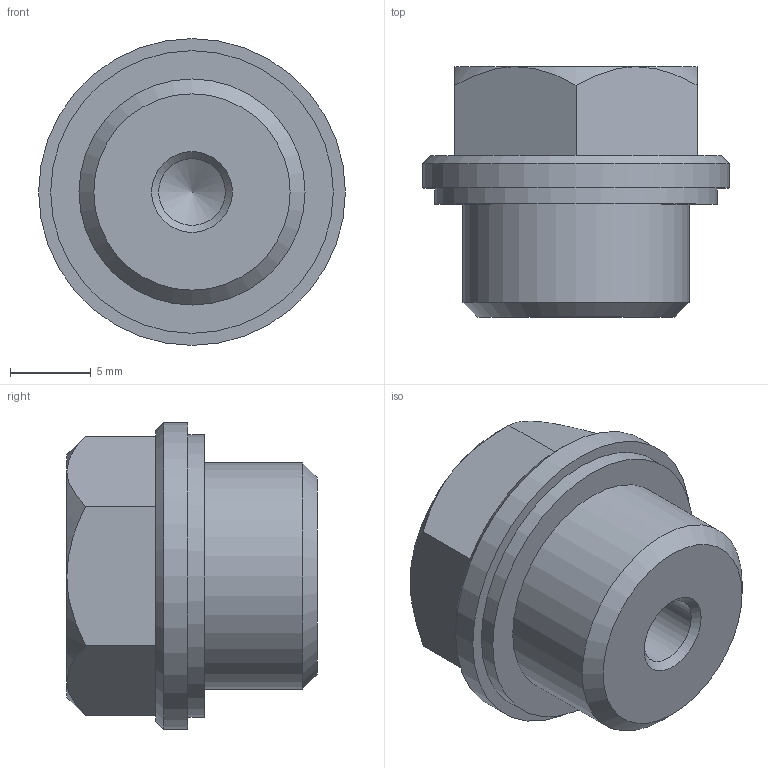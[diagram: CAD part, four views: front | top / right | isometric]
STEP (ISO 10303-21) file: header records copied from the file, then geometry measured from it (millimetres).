
FILE_DESCRIPTION( ( 'STEP AP203' ), '1' );
FILE_NAME( 'C:/Temp/Ganter_Step_05_03_2020/data/3_5/gn742/gn742_1/Threaded plug GN 742-19-M14x1,5-ASS-1.stp', '2020-03-12T13:38:57', ( 'License CC BY-ND 4.0' ), ( 'CADENAS' ), ' ', 'PARTsolutions', ' ' );
FILE_SCHEMA( ( 'CONFIG_CONTROL_DESIGN' ) );
Length unit declared in the file: millimetre
Products named in the file (1): _Threaded plug GN 742-19-M14x1,5-ASS-1
Bounding box: 19 x 15.5 x 19 mm (x, y, z)
Volume: 2757 mm3; surface area: 1435.6 mm2
Topology: 1 solids, 1 shells, 52 faces, 125 edges, 80 vertices
Faces by surface type: plane 38, cone 10, cylinder 4
Full cylindrical faces by diameter (mm): 4.134 x1, 14 x1, 17.5 x1, 19 x1
Entity records: 1541 total; most frequent: CARTESIAN_POINT 329, ORIENTED_EDGE 232, DIRECTION 227, EDGE_CURVE 116, LINE 87, VECTOR 87, VERTEX_POINT 80, AXIS2_PLACEMENT_3D 70
